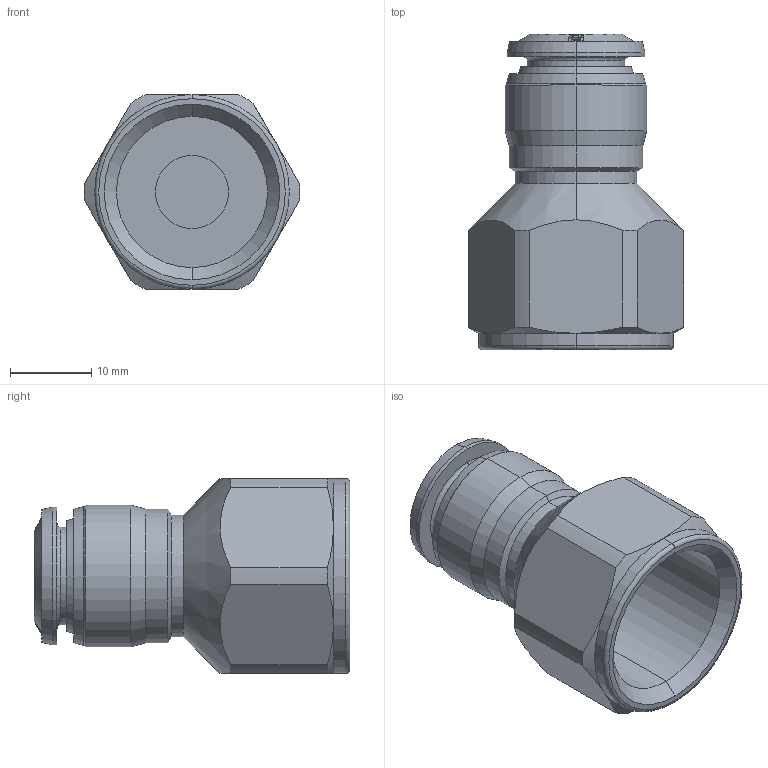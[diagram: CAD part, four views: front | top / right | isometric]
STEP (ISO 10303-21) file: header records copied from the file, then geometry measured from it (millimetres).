
FILE_DESCRIPTION (( 'STEP AP214' ), '1' );
FILE_NAME ('5003000013.step', '2012-10-01T16:42:20', ( '' ), ( '' ), 'SwSTEP 2.0', 'SolidWorks 2012', '' );
FILE_SCHEMA (( 'AUTOMOTIVE_DESIGN' ));
Length unit declared in the file: millimetre
Products named in the file (1): 5003000013
Bounding box: 26.59 x 38.9 x 24 mm (x, y, z)
Volume: 7709.3 mm3; surface area: 5256.7 mm2
Topology: 1 solids, 2 shells, 154 faces, 367 edges, 230 vertices
Faces by surface type: bspline 54, cone 42, cylinder 34, plane 18, torus 6
Entity records: 9499 total; most frequent: CARTESIAN_POINT 4664, ORIENTED_EDGE 734, DIRECTION 481, EDGE_CURVE 367, VERTEX_POINT 230, AXIS2_PLACEMENT_3D 205, B_SPLINE_CURVE_WITH_KNOTS 192, EDGE_LOOP 169
